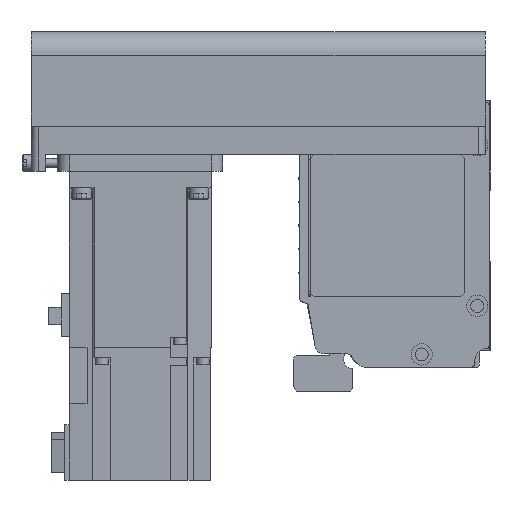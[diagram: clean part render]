
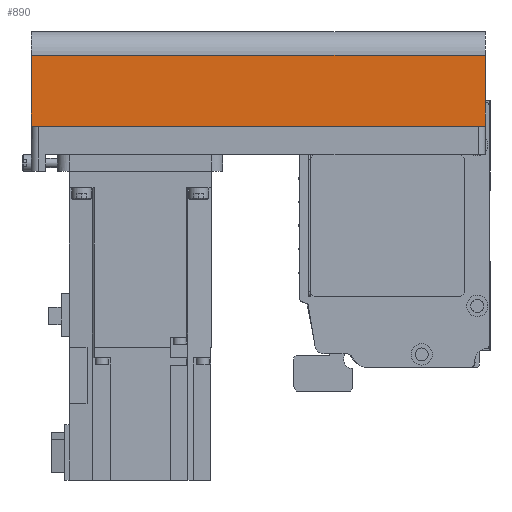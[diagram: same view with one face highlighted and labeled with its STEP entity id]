
A CAD part, left-side view. The second image highlights one B-rep face of the part: STEP entity #890.
In plain terms, the highlighted planar face has unit normal (-1, 0, 0) as drawn and (0, 1, 0) by its records, which use the part's own axes.
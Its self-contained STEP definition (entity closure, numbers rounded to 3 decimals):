
#890 = ADVANCED_FACE( '', ( #2377 ), #2378, .T. );
#2377 = FACE_OUTER_BOUND( '', #4697, .T. );
#2378 = PLANE( '', #4698 );
#4697 = EDGE_LOOP( '', ( #7081, #7082, #7083, #7084 ) );
#4698 = AXIS2_PLACEMENT_3D( '', #7085, #7086, #7087 );
#7081 = ORIENTED_EDGE( '', *, *, #13336, .F. );
#7082 = ORIENTED_EDGE( '', *, *, #13337, .F. );
#7083 = ORIENTED_EDGE( '', *, *, #13338, .T. );
#7084 = ORIENTED_EDGE( '', *, *, #13339, .T. );
#7085 = CARTESIAN_POINT( '', ( -192., 40., -42. ) );
#7086 = DIRECTION( '', ( 0., 1., 0. ) );
#7087 = DIRECTION( '', ( 0., 0., 1. ) );
#13336 = EDGE_CURVE( '', #15840, #15841, #15842, .T. );
#13337 = EDGE_CURVE( '', #15843, #15840, #15844, .T. );
#13338 = EDGE_CURVE( '', #15843, #15845, #15846, .T. );
#13339 = EDGE_CURVE( '', #15845, #15841, #15847, .T. );
#15840 = VERTEX_POINT( '', #19506 );
#15841 = VERTEX_POINT( '', #19507 );
#15842 = LINE( '', #19508, #19509 );
#15843 = VERTEX_POINT( '', #19510 );
#15844 = LINE( '', #19511, #19512 );
#15845 = VERTEX_POINT( '', #19513 );
#15846 = LINE( '', #19514, #19515 );
#15847 = LINE( '', #19516, #19517 );
#19506 = CARTESIAN_POINT( '', ( 0., 40., -42. ) );
#19507 = CARTESIAN_POINT( '', ( 0., 40., -12.1 ) );
#19508 = CARTESIAN_POINT( '', ( 0., 40., -42. ) );
#19509 = VECTOR( '', #24244, 1000. );
#19510 = CARTESIAN_POINT( '', ( -192., 40., -42. ) );
#19511 = CARTESIAN_POINT( '', ( -192., 40., -42. ) );
#19512 = VECTOR( '', #24245, 1000. );
#19513 = CARTESIAN_POINT( '', ( -192., 40., -12.1 ) );
#19514 = CARTESIAN_POINT( '', ( -192., 40., -42. ) );
#19515 = VECTOR( '', #24246, 1000. );
#19516 = CARTESIAN_POINT( '', ( -192., 40., -12.1 ) );
#19517 = VECTOR( '', #24247, 1000. );
#24244 = DIRECTION( '', ( 0., 0., 1. ) );
#24245 = DIRECTION( '', ( 1., 0., 0. ) );
#24246 = DIRECTION( '', ( 0., 0., 1. ) );
#24247 = DIRECTION( '', ( 1., 0., 0. ) );
